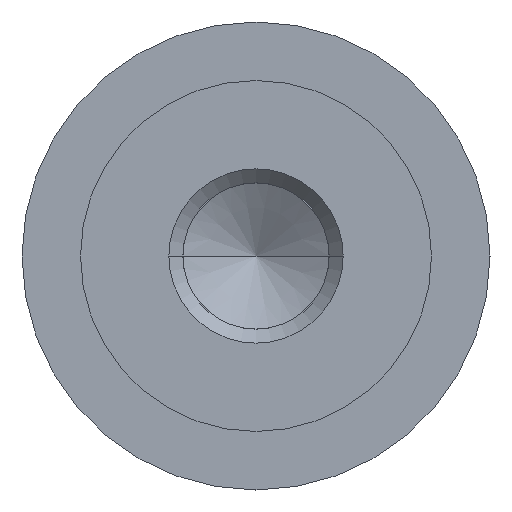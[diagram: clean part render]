
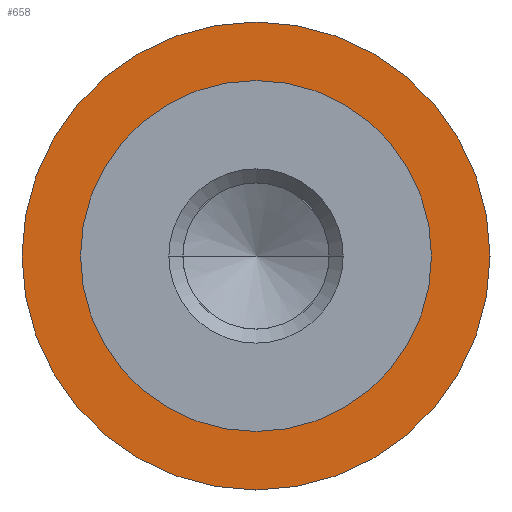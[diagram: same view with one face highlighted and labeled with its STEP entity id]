
A CAD part, left-side view. The second image highlights one B-rep face of the part: STEP entity #658.
In plain terms, the highlighted planar face has unit normal (-1, 0, 0).
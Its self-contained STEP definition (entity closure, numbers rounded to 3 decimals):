
#5 = DIRECTION ( 'NONE',  ( 0., 0., -1. ) ) ;
#35 = DIRECTION ( 'NONE',  ( 0., 0., 1. ) ) ;
#53 = FACE_BOUND ( 'NONE', #155, .T. ) ;
#59 = CIRCLE ( 'NONE', #121, 3. ) ;
#73 = ORIENTED_EDGE ( 'NONE', *, *, #143, .F. ) ;
#93 = DIRECTION ( 'NONE',  ( -1., 0., 0. ) ) ;
#94 = CIRCLE ( 'NONE', #408, 4. ) ;
#100 = AXIS2_PLACEMENT_3D ( 'NONE', #183, #777, #5 ) ;
#103 = FACE_OUTER_BOUND ( 'NONE', #152, .T. ) ;
#111 = VERTEX_POINT ( 'NONE', #716 ) ;
#121 = AXIS2_PLACEMENT_3D ( 'NONE', #631, #430, #550 ) ;
#143 = EDGE_CURVE ( 'NONE', #189, #111, #59, .T. ) ;
#147 = DIRECTION ( 'NONE',  ( 0., 0., 1. ) ) ;
#152 = EDGE_LOOP ( 'NONE', ( #432, #567 ) ) ;
#154 = CARTESIAN_POINT ( 'NONE',  ( -4., 0., 0. ) ) ;
#155 = EDGE_LOOP ( 'NONE', ( #73, #212 ) ) ;
#183 = CARTESIAN_POINT ( 'NONE',  ( -4., 3., 0. ) ) ;
#189 = VERTEX_POINT ( 'NONE', #323 ) ;
#207 = EDGE_CURVE ( 'NONE', #357, #543, #94, .T. ) ;
#212 = ORIENTED_EDGE ( 'NONE', *, *, #496, .F. ) ;
#230 = CARTESIAN_POINT ( 'NONE',  ( -4., 0., 4. ) ) ;
#272 = DIRECTION ( 'NONE',  ( -1., 0., 0. ) ) ;
#280 = PLANE ( 'NONE',  #100 ) ;
#323 = CARTESIAN_POINT ( 'NONE',  ( -4., 0., 3. ) ) ;
#357 = VERTEX_POINT ( 'NONE', #230 ) ;
#364 = AXIS2_PLACEMENT_3D ( 'NONE', #575, #272, #512 ) ;
#408 = AXIS2_PLACEMENT_3D ( 'NONE', #154, #93, #147 ) ;
#425 = CARTESIAN_POINT ( 'NONE',  ( -4., 0., 0. ) ) ;
#430 = DIRECTION ( 'NONE',  ( -1., 0., 0. ) ) ;
#432 = ORIENTED_EDGE ( 'NONE', *, *, #207, .T. ) ;
#484 = EDGE_CURVE ( 'NONE', #543, #357, #638, .T. ) ;
#496 = EDGE_CURVE ( 'NONE', #111, #189, #720, .T. ) ;
#512 = DIRECTION ( 'NONE',  ( 0., 0., 1. ) ) ;
#543 = VERTEX_POINT ( 'NONE', #580 ) ;
#550 = DIRECTION ( 'NONE',  ( 0., 0., 1. ) ) ;
#567 = ORIENTED_EDGE ( 'NONE', *, *, #484, .T. ) ;
#575 = CARTESIAN_POINT ( 'NONE',  ( -4., 0., 0. ) ) ;
#580 = CARTESIAN_POINT ( 'NONE',  ( -4., 0., -4. ) ) ;
#604 = AXIS2_PLACEMENT_3D ( 'NONE', #425, #676, #35 ) ;
#631 = CARTESIAN_POINT ( 'NONE',  ( -4., 0., 0. ) ) ;
#638 = CIRCLE ( 'NONE', #604, 4. ) ;
#658 = ADVANCED_FACE ( 'NONE', ( #53, #103 ), #280, .F. ) ;
#676 = DIRECTION ( 'NONE',  ( -1., 0., 0. ) ) ;
#716 = CARTESIAN_POINT ( 'NONE',  ( -4., 0., -3. ) ) ;
#720 = CIRCLE ( 'NONE', #364, 3. ) ;
#777 = DIRECTION ( 'NONE',  ( 1., 0., 0. ) ) ;
